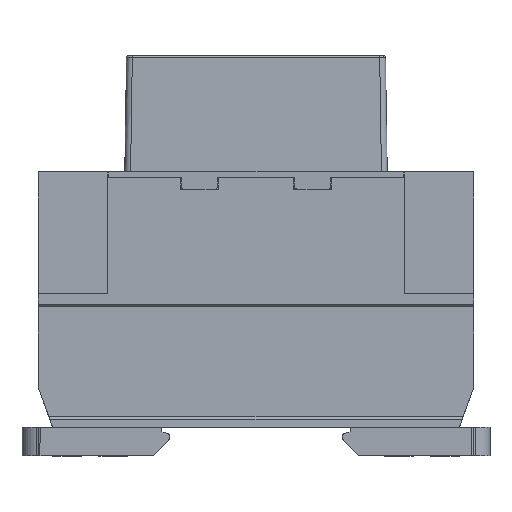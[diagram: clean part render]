
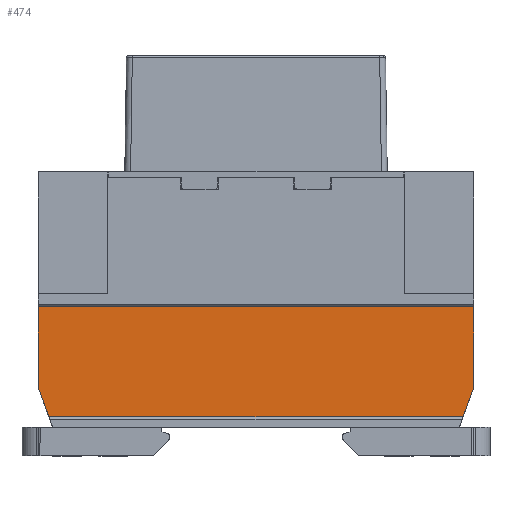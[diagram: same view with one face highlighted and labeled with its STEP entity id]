
A CAD part, left-side view. The second image highlights one B-rep face of the part: STEP entity #474.
In plain terms, the highlighted planar face has unit normal (-1, 0, 0).
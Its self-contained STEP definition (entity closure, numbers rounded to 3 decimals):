
#6 = EDGE_CURVE ( 'NONE', #10389, #1396, #10533, .T. ) ;
#185 = VECTOR ( 'NONE', #6210, 1000. ) ;
#474 = ADVANCED_FACE ( 'NONE', ( #12938 ), #4106, .F. ) ;
#552 = CARTESIAN_POINT ( 'NONE',  ( 0.45, 77.8, 25.75 ) ) ;
#820 = DIRECTION ( 'NONE',  ( 0., -1., 0. ) ) ;
#1270 = CARTESIAN_POINT ( 'NONE',  ( 0.45, 2.8, 11.869 ) ) ;
#1396 = VERTEX_POINT ( 'NONE', #15807 ) ;
#1676 = DIRECTION ( 'NONE',  ( 0., 0.342, 0.94 ) ) ;
#1834 = ORIENTED_EDGE ( 'NONE', *, *, #19211, .T. ) ;
#2167 = EDGE_CURVE ( 'NONE', #10389, #10801, #19604, .T. ) ;
#2339 = DIRECTION ( 'NONE',  ( 1., 0., 0. ) ) ;
#2669 = LINE ( 'NONE', #6333, #185 ) ;
#3993 = VECTOR ( 'NONE', #820, 1000. ) ;
#4106 = PLANE ( 'NONE',  #14025 ) ;
#4634 = EDGE_CURVE ( 'NONE', #1396, #9787, #16915, .T. ) ;
#4806 = CARTESIAN_POINT ( 'NONE',  ( 0.45, 77.8, 6.85 ) ) ;
#4889 = EDGE_LOOP ( 'NONE', ( #1834, #7520, #7078, #16752, #20794, #9475 ) ) ;
#4892 = DIRECTION ( 'NONE',  ( 0., 0., 1. ) ) ;
#5027 = CARTESIAN_POINT ( 'NONE',  ( 0.45, 4.627, 6.85 ) ) ;
#5146 = CARTESIAN_POINT ( 'NONE',  ( 0.45, 2.8, 6.85 ) ) ;
#5254 = DIRECTION ( 'NONE',  ( 0., -1., 0. ) ) ;
#5375 = VECTOR ( 'NONE', #5254, 1000. ) ;
#6210 = DIRECTION ( 'NONE',  ( 0., 0.342, -0.94 ) ) ;
#6333 = CARTESIAN_POINT ( 'NONE',  ( 0.45, 5.3, 5. ) ) ;
#7078 = ORIENTED_EDGE ( 'NONE', *, *, #4634, .F. ) ;
#7520 = ORIENTED_EDGE ( 'NONE', *, *, #7945, .F. ) ;
#7945 = EDGE_CURVE ( 'NONE', #9787, #16989, #22500, .T. ) ;
#8339 = VERTEX_POINT ( 'NONE', #1270 ) ;
#8461 = DIRECTION ( 'NONE',  ( 0., 0., 1. ) ) ;
#9475 = ORIENTED_EDGE ( 'NONE', *, *, #21319, .F. ) ;
#9701 = CARTESIAN_POINT ( 'NONE',  ( 0.45, 75.973, 6.85 ) ) ;
#9787 = VERTEX_POINT ( 'NONE', #552 ) ;
#9892 = CARTESIAN_POINT ( 'NONE',  ( 0.45, 77.8, 6.85 ) ) ;
#10389 = VERTEX_POINT ( 'NONE', #9701 ) ;
#10533 = LINE ( 'NONE', #19563, #15088 ) ;
#10801 = VERTEX_POINT ( 'NONE', #5027 ) ;
#12938 = FACE_OUTER_BOUND ( 'NONE', #4889, .T. ) ;
#13311 = CARTESIAN_POINT ( 'NONE',  ( 0.45, 77.8, 25.75 ) ) ;
#14025 = AXIS2_PLACEMENT_3D ( 'NONE', #9892, #2339, #20121 ) ;
#15088 = VECTOR ( 'NONE', #1676, 1000. ) ;
#15807 = CARTESIAN_POINT ( 'NONE',  ( 0.45, 77.8, 11.869 ) ) ;
#16310 = CARTESIAN_POINT ( 'NONE',  ( 0.45, 2.8, 25.75 ) ) ;
#16752 = ORIENTED_EDGE ( 'NONE', *, *, #6, .F. ) ;
#16915 = LINE ( 'NONE', #4806, #19649 ) ;
#16989 = VERTEX_POINT ( 'NONE', #16310 ) ;
#19211 = EDGE_CURVE ( 'NONE', #8339, #16989, #22809, .T. ) ;
#19498 = CARTESIAN_POINT ( 'NONE',  ( 0.45, 77.8, 6.85 ) ) ;
#19563 = CARTESIAN_POINT ( 'NONE',  ( 0.45, 75.3, 5. ) ) ;
#19604 = LINE ( 'NONE', #19498, #5375 ) ;
#19649 = VECTOR ( 'NONE', #8461, 1000. ) ;
#19830 = VECTOR ( 'NONE', #4892, 1000. ) ;
#20121 = DIRECTION ( 'NONE',  ( 0., 0., -1. ) ) ;
#20794 = ORIENTED_EDGE ( 'NONE', *, *, #2167, .T. ) ;
#21319 = EDGE_CURVE ( 'NONE', #8339, #10801, #2669, .T. ) ;
#22500 = LINE ( 'NONE', #13311, #3993 ) ;
#22809 = LINE ( 'NONE', #5146, #19830 ) ;
